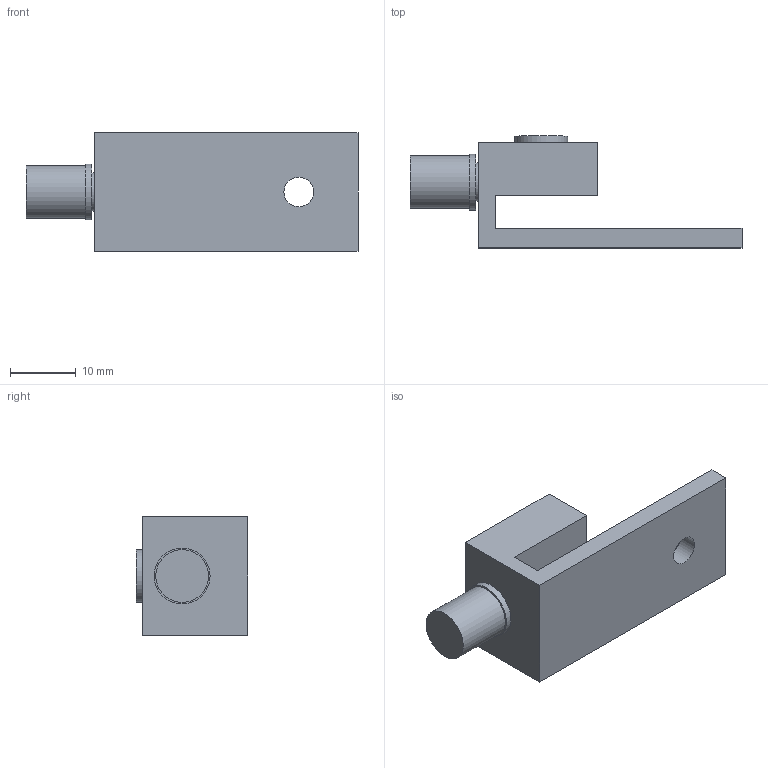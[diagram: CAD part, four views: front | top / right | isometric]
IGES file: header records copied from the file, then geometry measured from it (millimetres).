
Start section: Data from Parasolid IGES Translator 20.0.26, Copyright(c) 2006 Siemens P LM Software. All Rights Reserved.
Global section: file name: 9303936.igs; native system: By Siemens PLM Incorporated; preprocessor: XPlus GENERIC/IGES 20.0.26; author: Noname; organization: Noname; date: 20210922.163251; units: millimetre
Bounding box: 50.44 x 17 x 18 mm (x, y, z)
Surface area: 3483.6 mm2 (no closed solid volume)
Topology: 0 solids, 0 shells, 19 faces, 78 edges, 68 vertices
Faces by surface type: extrusion 14, revolution 5
